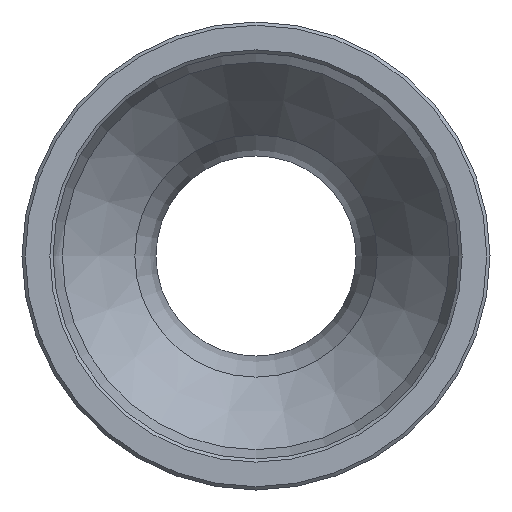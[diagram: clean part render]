
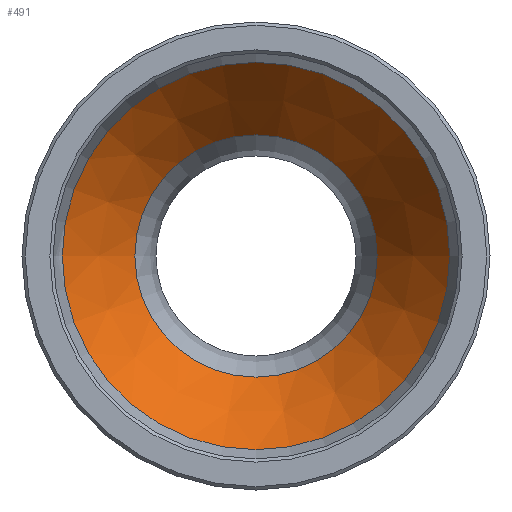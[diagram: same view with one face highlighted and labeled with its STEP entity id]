
A CAD part, left-side view. The second image highlights one B-rep face of the part: STEP entity #491.
In plain terms, the highlighted conical face has half-angle 35 degrees and reference radius 9.611 mm.
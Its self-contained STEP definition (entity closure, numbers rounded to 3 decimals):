
#457=CARTESIAN_POINT('',(-6.194,7.396,0.0));
#458=VERTEX_POINT('',#457);
#459=CARTESIAN_POINT('',(-6.194,0.0,0.0));
#460=DIRECTION('',(1.0,0.0,0.0));
#461=DIRECTION('',(0.0,1.0,0.0));
#462=AXIS2_PLACEMENT_3D('',#459,#460,#461);
#463=CIRCLE('',#462,7.396);
#464=EDGE_CURVE('',#458,#458,#463,.T.);
#472=CARTESIAN_POINT('',(-9.358,0.0,0.0));
#473=DIRECTION('',(-1.0,0.0,0.0));
#474=DIRECTION('',(0.0,1.0,0.0));
#475=AXIS2_PLACEMENT_3D('',#472,#473,#474);
#476=CONICAL_SURFACE('',#475,9.611,35.);
#477=CARTESIAN_POINT('',(-12.522,11.827,0.0));
#478=VERTEX_POINT('',#477);
#479=CARTESIAN_POINT('',(-12.522,0.0,0.0));
#480=DIRECTION('',(1.0,0.0,0.0));
#481=DIRECTION('',(0.0,1.0,0.0));
#482=AXIS2_PLACEMENT_3D('',#479,#480,#481);
#483=CIRCLE('',#482,11.827);
#484=EDGE_CURVE('',#478,#478,#483,.T.);
#485=ORIENTED_EDGE('',*,*,#484,.F.);
#486=EDGE_LOOP('',(#485));
#487=FACE_OUTER_BOUND('',#486,.T.);
#488=ORIENTED_EDGE('',*,*,#464,.T.);
#489=EDGE_LOOP('',(#488));
#490=FACE_BOUND('',#489,.T.);
#491=ADVANCED_FACE('',(#487,#490),#476,.F.);
